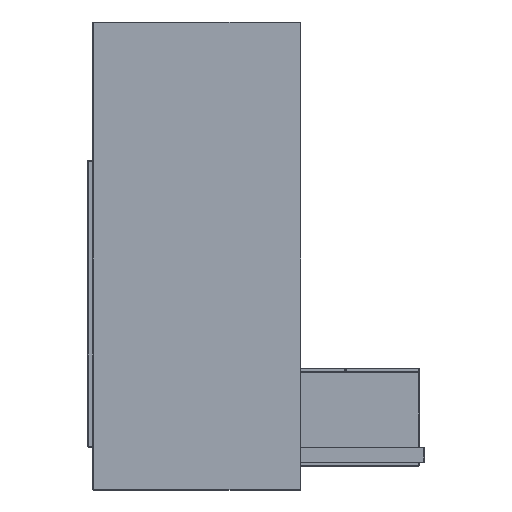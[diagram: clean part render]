
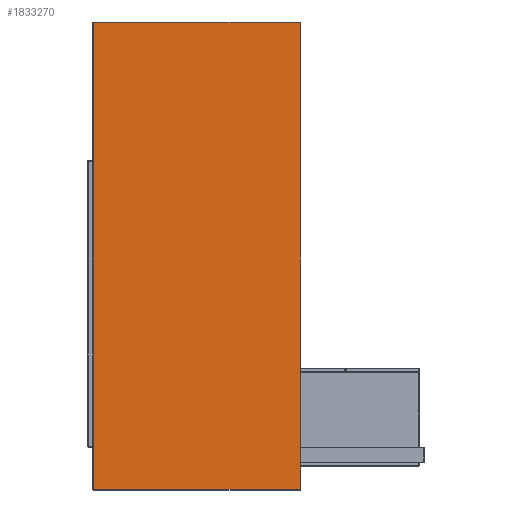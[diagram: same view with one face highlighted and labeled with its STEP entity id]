
A CAD part, top view. The second image highlights one B-rep face of the part: STEP entity #1833270.
In plain terms, the highlighted free-form (B-spline) face has degree [1, 1] with [2, 2] control points.
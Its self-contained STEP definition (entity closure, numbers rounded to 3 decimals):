
#1832920 = CARTESIAN_POINT ('', (-398., 898., 363.425));
#1832930 = VERTEX_POINT ('', #1832920);
#1832940 = CARTESIAN_POINT ('', (-398., -898., 363.425));
#1832950 = VERTEX_POINT ('', #1832940);
#1832960 = CARTESIAN_POINT ('', (-398., 898., 363.425));
#1832970 = CARTESIAN_POINT ('', (-398., -898., 363.425));
#1832980 = (
   BOUNDED_CURVE ()
   B_SPLINE_CURVE (1, (#1832960, #1832970), .UNSPECIFIED., .F., .U.)
   B_SPLINE_CURVE_WITH_KNOTS ((2, 2), (0., 1796.), .UNSPECIFIED.)
   CURVE ()
   GEOMETRIC_REPRESENTATION_ITEM ()
   RATIONAL_B_SPLINE_CURVE ((1., 1.))
   REPRESENTATION_ITEM ('')
);
#1832990 = EDGE_CURVE ('', #1832930, #1832950, #1832980, .T.);
#1833000 = ORIENTED_EDGE ('', *, *, #1832990, .T.);
#1833010 = CARTESIAN_POINT ('', (398., -898., 363.425));
#1833020 = VERTEX_POINT ('', #1833010);
#1833030 = CARTESIAN_POINT ('', (-398., -898., 363.425));
#1833040 = CARTESIAN_POINT ('', (398., -898., 363.425));
#1833050 = (
   BOUNDED_CURVE ()
   B_SPLINE_CURVE (1, (#1833030, #1833040), .UNSPECIFIED., .F., .U.)
   B_SPLINE_CURVE_WITH_KNOTS ((2, 2), (0., 796.), .UNSPECIFIED.)
   CURVE ()
   GEOMETRIC_REPRESENTATION_ITEM ()
   RATIONAL_B_SPLINE_CURVE ((1., 1.))
   REPRESENTATION_ITEM ('')
);
#1833060 = EDGE_CURVE ('', #1832950, #1833020, #1833050, .T.);
#1833070 = ORIENTED_EDGE ('', *, *, #1833060, .T.);
#1833080 = CARTESIAN_POINT ('', (398., 898., 363.425));
#1833090 = VERTEX_POINT ('', #1833080);
#1833100 = CARTESIAN_POINT ('', (398., -898., 363.425));
#1833110 = CARTESIAN_POINT ('', (398., 898., 363.425));
#1833120 = (
   BOUNDED_CURVE ()
   B_SPLINE_CURVE (1, (#1833100, #1833110), .UNSPECIFIED., .F., .U.)
   B_SPLINE_CURVE_WITH_KNOTS ((2, 2), (0., 1796.), .UNSPECIFIED.)
   CURVE ()
   GEOMETRIC_REPRESENTATION_ITEM ()
   RATIONAL_B_SPLINE_CURVE ((1., 1.))
   REPRESENTATION_ITEM ('')
);
#1833130 = EDGE_CURVE ('', #1833020, #1833090, #1833120, .T.);
#1833140 = ORIENTED_EDGE ('', *, *, #1833130, .T.);
#1833150 = CARTESIAN_POINT ('', (398., 898., 363.425));
#1833160 = CARTESIAN_POINT ('', (-398., 898., 363.425));
#1833170 = (
   BOUNDED_CURVE ()
   B_SPLINE_CURVE (1, (#1833150, #1833160), .UNSPECIFIED., .F., .U.)
   B_SPLINE_CURVE_WITH_KNOTS ((2, 2), (0., 796.), .UNSPECIFIED.)
   CURVE ()
   GEOMETRIC_REPRESENTATION_ITEM ()
   RATIONAL_B_SPLINE_CURVE ((1., 1.))
   REPRESENTATION_ITEM ('')
);
#1833180 = EDGE_CURVE ('', #1833090, #1832930, #1833170, .T.);
#1833190 = ORIENTED_EDGE ('', *, *, #1833180, .T.);
#1833200 = EDGE_LOOP ('', (#1833000, #1833070, #1833140, #1833190));
#1833210 = FACE_OUTER_BOUND ('', #1833200, .T.);
#1833220 = CARTESIAN_POINT ('', (1514.332, -2271.497, 363.425));
#1833230 = CARTESIAN_POINT ('', (-1514.332, -2271.497, 363.425));
#1833240 = CARTESIAN_POINT ('', (1514.332, 2271.497, 363.425));
#1833250 = CARTESIAN_POINT ('', (-1514.332, 2271.497, 363.425));
#1833260 = B_SPLINE_SURFACE_WITH_KNOTS ('', 1, 1, ((#1833220, #1833230), (#1833240, #1833250)), .UNSPECIFIED., .F., .F., .U., (2, 2), (2, 2), (0., 1.), (0., 1.), .UNSPECIFIED.);
#1833270 = ADVANCED_FACE ('', (#1833210), #1833260, .T.);
